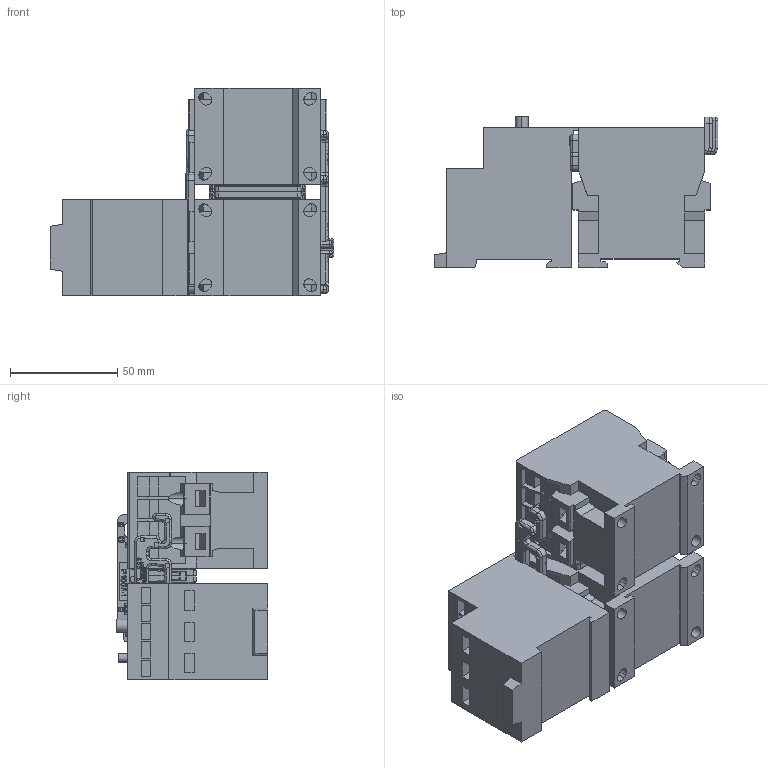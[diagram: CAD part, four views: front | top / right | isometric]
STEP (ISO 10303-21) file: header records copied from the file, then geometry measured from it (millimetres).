
FILE_DESCRIPTION (( 'STEP AP203' ), '1' );
FILE_NAME ('K3NWU-07_10_14_22+U3_32.STEP', '2014-03-11T10:43:17', ( '' ), ( '' ), 'SwSTEP 2.0', 'SolidWorks 2014', '' );
FILE_SCHEMA (( 'CONFIG_CONTROL_DESIGN' ));
Length unit declared in the file: millimetre
Products named in the file (18): 65061; Imported45; 65063; 65104; 47924; 65058; 65276; U3-32; 65279; K3NWU-07_10_14_22+U3_32; 65278; K3-10N; 65277; 28468; Imported44; 47922
Assembly tree (18 placements, depth 3):
  K3NWU-07_10_14_22+U3_32
    K3-10N  x2
    47924
      28468
      Imported44
      47922
      Imported45
    65276
      65276
      65279
      65278
      65277
    65058
      65058
      65061
      65063
      65104
    U3-32
Bounding box: 132.32 x 70.7 x 97 mm (x, y, z)
Volume: 450292.3 mm3; surface area: 92726.5 mm2
Topology: 15 solids, 15 shells, 2401 faces, 6380 edges, 4123 vertices
Faces by surface type: plane 1300, cylinder 686, bspline 251, torus 152, cone 12
Entity records: 80192 total; most frequent: CARTESIAN_POINT 27196, ORIENTED_EDGE 11192, DIRECTION 9921, EDGE_CURVE 5596, VERTEX_POINT 3613, VECTOR 3323, LINE 3323, AXIS2_PLACEMENT_3D 3299
